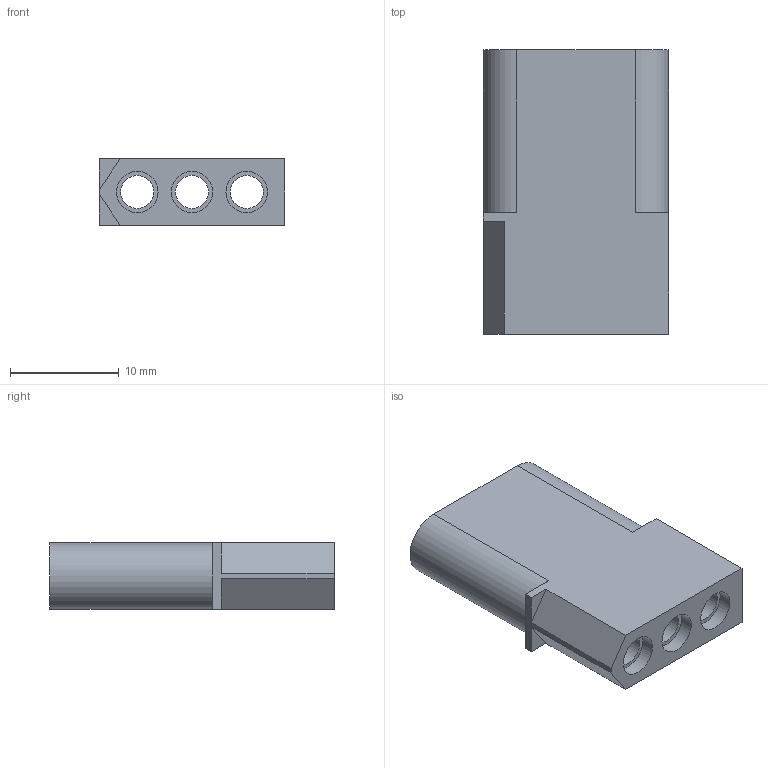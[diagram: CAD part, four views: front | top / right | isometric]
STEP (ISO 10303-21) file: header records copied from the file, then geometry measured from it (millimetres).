
FILE_DESCRIPTION((''),'2;1');
FILE_NAME('003091033','2013-12-10T',('me'),(''),'PRO/ENGINEER BY PARAMETRIC TECHNOLOGY CORPORATION, 2011490','PRO/ENGINEER BY PARAMETRIC TECHNOLOGY CORPORATION, 2011490','');
FILE_SCHEMA(('CONFIG_CONTROL_DESIGN'));
Length unit declared in the file: inch
Products named in the file (1): 003091033
Bounding box: 17.02 x 26.16 x 6.1 mm (x, y, z)
Volume: 1943.6 mm3; surface area: 2032.7 mm2
Topology: 1 solids, 1 shells, 40 faces, 97 edges, 68 vertices
Faces by surface type: plane 20, cylinder 20
Entity records: 1240 total; most frequent: DIRECTION 221, CARTESIAN_POINT 200, ORIENTED_EDGE 188, EDGE_CURVE 94, AXIS2_PLACEMENT_3D 83, VERTEX_POINT 62, VECTOR 55, LINE 55
